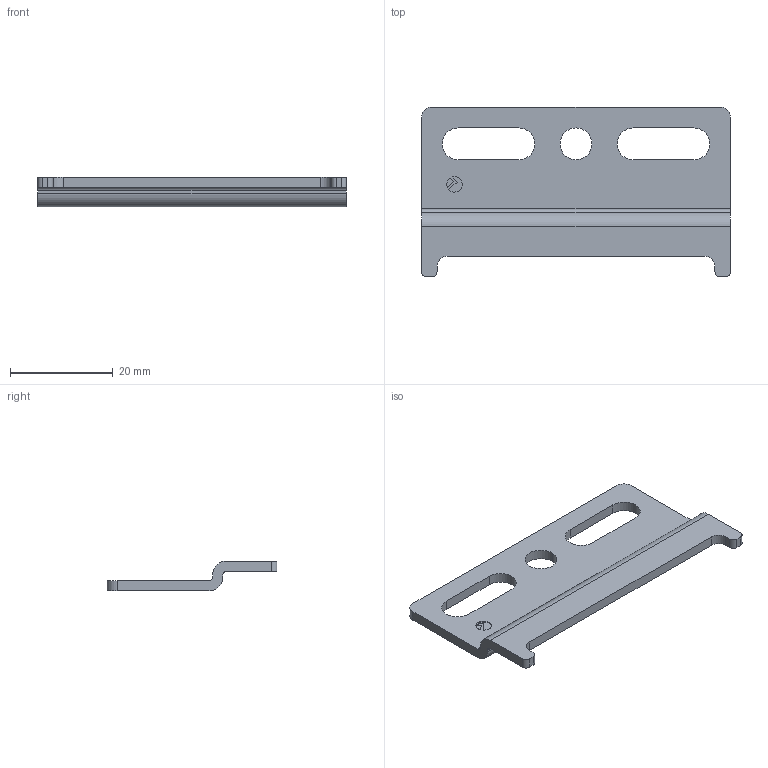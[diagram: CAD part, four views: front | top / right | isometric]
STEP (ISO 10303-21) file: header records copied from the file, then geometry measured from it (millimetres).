
FILE_DESCRIPTION (( 'STEP AP203' ), '1' );
FILE_NAME ('IF závìsný plech na stìnu s dorazy Š=60mm_389592.STEP', '2023-03-20T10:13:32', ( '' ), ( '' ), 'SwSTEP 2.0', 'SolidWorks 2019', '' );
FILE_SCHEMA (( 'CONFIG_CONTROL_DESIGN' ));
Length unit declared in the file: millimetre
Products named in the file (1): IF závìsný plech na stìnu s dorazy Š=60mm_389592
Bounding box: 60 x 33 x 5.8 mm (x, y, z)
Volume: 3332.3 mm3; surface area: 3934.6 mm2
Topology: 1 solids, 1 shells, 47 faces, 129 edges, 86 vertices
Faces by surface type: bspline 47
Entity records: 1670 total; most frequent: CARTESIAN_POINT 505, ORIENTED_EDGE 258, DIRECTION 174, EDGE_CURVE 129, VERTEX_POINT 86, LINE 80, VECTOR 80, EDGE_LOOP 55
